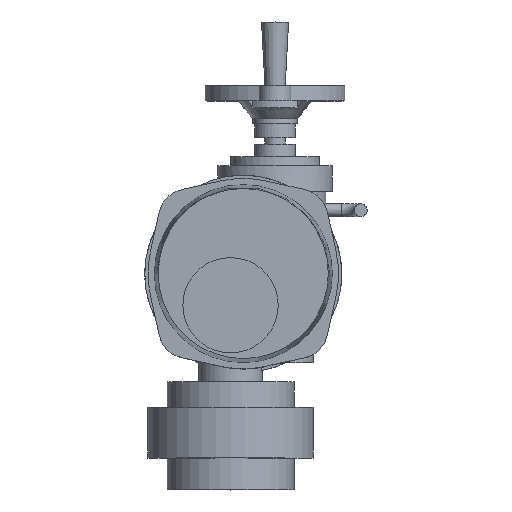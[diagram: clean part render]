
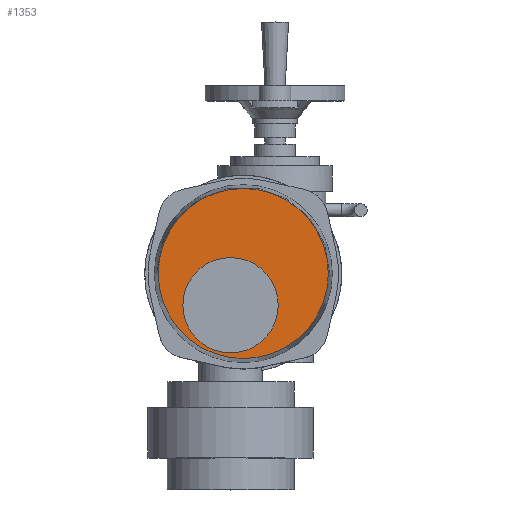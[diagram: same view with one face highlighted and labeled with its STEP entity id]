
A CAD part, top view. The second image highlights one B-rep face of the part: STEP entity #1353.
In plain terms, the highlighted planar face has unit normal (0, 0, 1).
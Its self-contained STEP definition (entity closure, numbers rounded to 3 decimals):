
#1353=ADVANCED_FACE('',(#2953,#2955),#2957,.T.);
#2953=FACE_BOUND('',#2954,.T.);
#2954=EDGE_LOOP('',(#4012));
#2955=FACE_BOUND('',#2956,.T.);
#2956=EDGE_LOOP('',(#4013));
#2957=PLANE('',#2958);
#2958=AXIS2_PLACEMENT_3D('',#2959,#2960,#2961);
#2959=CARTESIAN_POINT('',(15.,30.,332.));
#2960=DIRECTION('',(0.,0.,1.));
#2961=DIRECTION('',(-1.,0.,0.));
#4012=ORIENTED_EDGE('',*,*,#4514,.T.);
#4013=ORIENTED_EDGE('',*,*,#4554,.F.);
#4514=EDGE_CURVE('',#5159,#5159,#5160,.T.);
#4554=EDGE_CURVE('',#5219,#5219,#5220,.T.);
#5159=VERTEX_POINT('',#7995);
#5160=CIRCLE('',#7996,66.908);
#5219=VERTEX_POINT('',#8150);
#5220=CIRCLE('',#8151,37.5);
#7995=CARTESIAN_POINT('',(-51.908,30.,332.));
#7996=AXIS2_PLACEMENT_3D('',#7997,#7998,#7999);
#7997=CARTESIAN_POINT('',(15.,30.,332.));
#7998=DIRECTION('',(0.,0.,1.));
#7999=DIRECTION('',(-1.,0.,0.));
#8150=CARTESIAN_POINT('',(-32.5,5.,332.));
#8151=AXIS2_PLACEMENT_3D('',#8152,#8153,#8154);
#8152=CARTESIAN_POINT('',(5.,5.,332.));
#8153=DIRECTION('',(0.,0.,1.));
#8154=DIRECTION('',(-1.,0.,0.));
